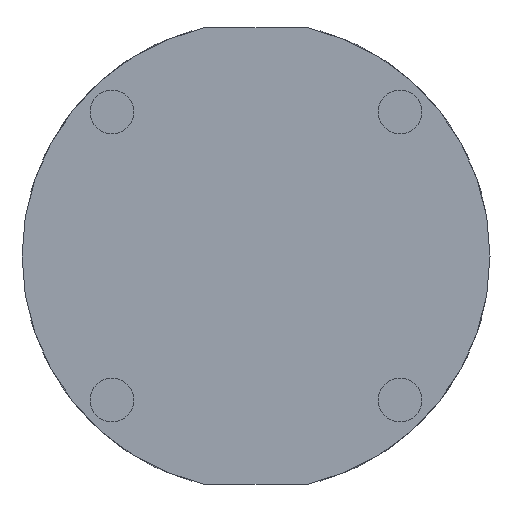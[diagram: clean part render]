
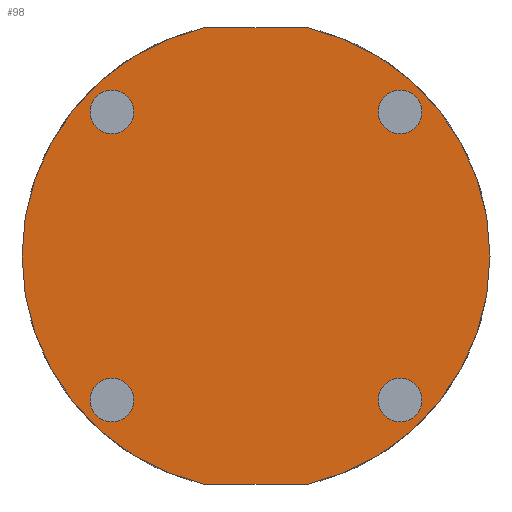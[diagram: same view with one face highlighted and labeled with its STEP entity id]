
A CAD part, front view. The second image highlights one B-rep face of the part: STEP entity #98.
In plain terms, the highlighted planar face has unit normal (0, -1, 0).
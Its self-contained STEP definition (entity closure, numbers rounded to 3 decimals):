
#98 = ADVANCED_FACE( '', ( #187, #188, #189, #190, #191 ), #192, .T. );
#187 = FACE_OUTER_BOUND( '', #324, .T. );
#188 = FACE_BOUND( '', #325, .T. );
#189 = FACE_BOUND( '', #326, .T. );
#190 = FACE_BOUND( '', #327, .T. );
#191 = FACE_BOUND( '', #328, .T. );
#192 = PLANE( '', #329 );
#324 = EDGE_LOOP( '', ( #584, #585, #586, #587, #588, #589 ) );
#325 = EDGE_LOOP( '', ( #590, #591 ) );
#326 = EDGE_LOOP( '', ( #592, #593 ) );
#327 = EDGE_LOOP( '', ( #594, #595 ) );
#328 = EDGE_LOOP( '', ( #596, #597 ) );
#329 = AXIS2_PLACEMENT_3D( '', #598, #599, #600 );
#584 = ORIENTED_EDGE( '', *, *, #924, .T. );
#585 = ORIENTED_EDGE( '', *, *, #940, .F. );
#586 = ORIENTED_EDGE( '', *, *, #905, .F. );
#587 = ORIENTED_EDGE( '', *, *, #937, .T. );
#588 = ORIENTED_EDGE( '', *, *, #911, .F. );
#589 = ORIENTED_EDGE( '', *, *, #932, .F. );
#590 = ORIENTED_EDGE( '', *, *, #941, .T. );
#591 = ORIENTED_EDGE( '', *, *, #885, .T. );
#592 = ORIENTED_EDGE( '', *, *, #942, .T. );
#593 = ORIENTED_EDGE( '', *, *, #889, .T. );
#594 = ORIENTED_EDGE( '', *, *, #943, .T. );
#595 = ORIENTED_EDGE( '', *, *, #893, .T. );
#596 = ORIENTED_EDGE( '', *, *, #944, .T. );
#597 = ORIENTED_EDGE( '', *, *, #897, .T. );
#598 = CARTESIAN_POINT( '', ( 15.5, -26., 0. ) );
#599 = DIRECTION( '', ( 0., -1., 0. ) );
#600 = DIRECTION( '', ( -1., 0., 0. ) );
#885 = EDGE_CURVE( '', #1041, #1045, #1047, .T. );
#889 = EDGE_CURVE( '', #1049, #1053, #1055, .T. );
#893 = EDGE_CURVE( '', #1057, #1061, #1063, .T. );
#897 = EDGE_CURVE( '', #1065, #1069, #1071, .T. );
#905 = EDGE_CURVE( '', #1085, #1081, #1087, .T. );
#911 = EDGE_CURVE( '', #1096, #1099, #1100, .T. );
#924 = EDGE_CURVE( '', #1122, #1123, #1124, .T. );
#932 = EDGE_CURVE( '', #1122, #1096, #1134, .T. );
#937 = EDGE_CURVE( '', #1085, #1099, #1143, .T. );
#940 = EDGE_CURVE( '', #1081, #1123, #1146, .T. );
#941 = EDGE_CURVE( '', #1045, #1041, #1147, .T. );
#942 = EDGE_CURVE( '', #1053, #1049, #1148, .T. );
#943 = EDGE_CURVE( '', #1061, #1057, #1149, .T. );
#944 = EDGE_CURVE( '', #1069, #1065, #1150, .T. );
#1041 = VERTEX_POINT( '', #1281 );
#1045 = VERTEX_POINT( '', #1286 );
#1047 = CIRCLE( '', #1289, 2.9 );
#1049 = VERTEX_POINT( '', #1291 );
#1053 = VERTEX_POINT( '', #1296 );
#1055 = CIRCLE( '', #1299, 2.9 );
#1057 = VERTEX_POINT( '', #1301 );
#1061 = VERTEX_POINT( '', #1306 );
#1063 = CIRCLE( '', #1309, 2.9 );
#1065 = VERTEX_POINT( '', #1311 );
#1069 = VERTEX_POINT( '', #1316 );
#1071 = CIRCLE( '', #1319, 2.9 );
#1081 = VERTEX_POINT( '', #1331 );
#1085 = VERTEX_POINT( '', #1336 );
#1087 = CIRCLE( '', #1339, 31. );
#1096 = VERTEX_POINT( '', #1350 );
#1099 = VERTEX_POINT( '', #1354 );
#1100 = CIRCLE( '', #1355, 31. );
#1122 = VERTEX_POINT( '', #1382 );
#1123 = VERTEX_POINT( '', #1383 );
#1124 = LINE( '', #1384, #1385 );
#1134 = CIRCLE( '', #1399, 31. );
#1143 = LINE( '', #1410, #1411 );
#1146 = CIRCLE( '', #1414, 31. );
#1147 = CIRCLE( '', #1415, 2.9 );
#1148 = CIRCLE( '', #1416, 2.9 );
#1149 = CIRCLE( '', #1417, 2.9 );
#1150 = CIRCLE( '', #1418, 2.9 );
#1281 = CARTESIAN_POINT( '', ( 21.142, -26., -21.142 ) );
#1286 = CARTESIAN_POINT( '', ( 17.041, -26., -17.041 ) );
#1289 = AXIS2_PLACEMENT_3D( '', #1563, #1564, #1565 );
#1291 = CARTESIAN_POINT( '', ( -17.041, -26., 17.041 ) );
#1296 = CARTESIAN_POINT( '', ( -21.142, -26., 21.142 ) );
#1299 = AXIS2_PLACEMENT_3D( '', #1571, #1572, #1573 );
#1301 = CARTESIAN_POINT( '', ( -21.142, -26., -21.142 ) );
#1306 = CARTESIAN_POINT( '', ( -17.041, -26., -17.041 ) );
#1309 = AXIS2_PLACEMENT_3D( '', #1579, #1580, #1581 );
#1311 = CARTESIAN_POINT( '', ( 17.041, -26., 17.041 ) );
#1316 = CARTESIAN_POINT( '', ( 21.142, -26., 21.142 ) );
#1319 = AXIS2_PLACEMENT_3D( '', #1587, #1588, #1589 );
#1331 = CARTESIAN_POINT( '', ( -31., -26., 0. ) );
#1336 = CARTESIAN_POINT( '', ( -6.778, -26., -30.25 ) );
#1339 = AXIS2_PLACEMENT_3D( '', #1603, #1604, #1605 );
#1350 = CARTESIAN_POINT( '', ( 31., -26., 0. ) );
#1354 = CARTESIAN_POINT( '', ( 6.778, -26., -30.25 ) );
#1355 = AXIS2_PLACEMENT_3D( '', #1615, #1616, #1617 );
#1382 = CARTESIAN_POINT( '', ( 6.778, -26., 30.25 ) );
#1383 = CARTESIAN_POINT( '', ( -6.778, -26., 30.25 ) );
#1384 = CARTESIAN_POINT( '', ( 7.75, -26., 30.25 ) );
#1385 = VECTOR( '', #1644, 1. );
#1399 = AXIS2_PLACEMENT_3D( '', #1658, #1659, #1660 );
#1410 = CARTESIAN_POINT( '', ( 7.75, -26., -30.25 ) );
#1411 = VECTOR( '', #1669, 1. );
#1414 = AXIS2_PLACEMENT_3D( '', #1676, #1677, #1678 );
#1415 = AXIS2_PLACEMENT_3D( '', #1679, #1680, #1681 );
#1416 = AXIS2_PLACEMENT_3D( '', #1682, #1683, #1684 );
#1417 = AXIS2_PLACEMENT_3D( '', #1685, #1686, #1687 );
#1418 = AXIS2_PLACEMENT_3D( '', #1688, #1689, #1690 );
#1563 = CARTESIAN_POINT( '', ( 19.092, -26., -19.092 ) );
#1564 = DIRECTION( '', ( 0., 1., 0. ) );
#1565 = DIRECTION( '', ( 0.707, 0., -0.707 ) );
#1571 = CARTESIAN_POINT( '', ( -19.092, -26., 19.092 ) );
#1572 = DIRECTION( '', ( 0., 1., 0. ) );
#1573 = DIRECTION( '', ( 0.707, 0., -0.707 ) );
#1579 = CARTESIAN_POINT( '', ( -19.092, -26., -19.092 ) );
#1580 = DIRECTION( '', ( 0., 1., 0. ) );
#1581 = DIRECTION( '', ( -0.707, 0., -0.707 ) );
#1587 = CARTESIAN_POINT( '', ( 19.092, -26., 19.092 ) );
#1588 = DIRECTION( '', ( 0., 1., 0. ) );
#1589 = DIRECTION( '', ( -0.707, 0., -0.707 ) );
#1603 = CARTESIAN_POINT( '', ( 0., -26., 0. ) );
#1604 = DIRECTION( '', ( 0., 1., 0. ) );
#1605 = DIRECTION( '', ( 1., 0., 0. ) );
#1615 = CARTESIAN_POINT( '', ( 0., -26., 0. ) );
#1616 = DIRECTION( '', ( 0., 1., 0. ) );
#1617 = DIRECTION( '', ( 1., 0., 0. ) );
#1644 = DIRECTION( '', ( -1., 0., 0. ) );
#1658 = CARTESIAN_POINT( '', ( 0., -26., 0. ) );
#1659 = DIRECTION( '', ( 0., 1., 0. ) );
#1660 = DIRECTION( '', ( 1., 0., 0. ) );
#1669 = DIRECTION( '', ( 1., 0., 0. ) );
#1676 = CARTESIAN_POINT( '', ( 0., -26., 0. ) );
#1677 = DIRECTION( '', ( 0., 1., 0. ) );
#1678 = DIRECTION( '', ( 1., 0., 0. ) );
#1679 = CARTESIAN_POINT( '', ( 19.092, -26., -19.092 ) );
#1680 = DIRECTION( '', ( 0., 1., 0. ) );
#1681 = DIRECTION( '', ( 0.707, 0., -0.707 ) );
#1682 = CARTESIAN_POINT( '', ( -19.092, -26., 19.092 ) );
#1683 = DIRECTION( '', ( 0., 1., 0. ) );
#1684 = DIRECTION( '', ( 0.707, 0., -0.707 ) );
#1685 = CARTESIAN_POINT( '', ( -19.092, -26., -19.092 ) );
#1686 = DIRECTION( '', ( 0., 1., 0. ) );
#1687 = DIRECTION( '', ( -0.707, 0., -0.707 ) );
#1688 = CARTESIAN_POINT( '', ( 19.092, -26., 19.092 ) );
#1689 = DIRECTION( '', ( 0., 1., 0. ) );
#1690 = DIRECTION( '', ( -0.707, 0., -0.707 ) );
